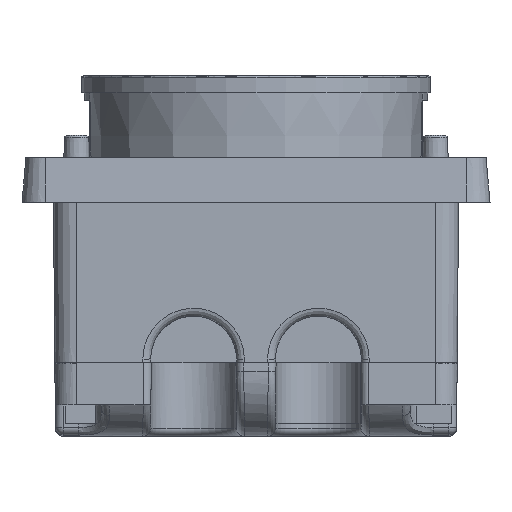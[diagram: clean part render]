
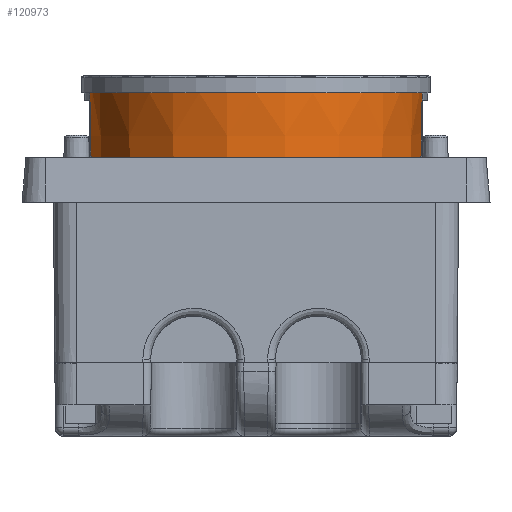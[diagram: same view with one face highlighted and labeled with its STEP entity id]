
A CAD part, left-side view. The second image highlights one B-rep face of the part: STEP entity #120973.
In plain terms, the highlighted conical face has half-angle 1 degrees and reference radius 21.295 mm.
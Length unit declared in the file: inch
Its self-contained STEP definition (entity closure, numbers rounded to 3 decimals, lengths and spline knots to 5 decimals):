
#117845=CARTESIAN_POINT('',(-0.5033,-0.64129,1.3622));
#117846=VERTEX_POINT('',#117845);
#117847=CARTESIAN_POINT('',(-1.04332,0.00001,1.3622));
#117848=DIRECTION('',(0.0,0.0,1.0));
#117849=DIRECTION('',(1.0,0.0,0.0));
#117850=AXIS2_PLACEMENT_3D('',#117847,#117848,#117849);
#117851=CIRCLE('',#117850,0.83838);
#117852=EDGE_CURVE('',#117846,#117846,#117851,.T.);
#120954=CARTESIAN_POINT('',(-1.04332,0.00001,1.3622));
#120955=DIRECTION('',(0.,0.,1.0));
#120956=DIRECTION('',(-1.0,0.0,0.0));
#120957=AXIS2_PLACEMENT_3D('',#120954,#120955,#120956);
#120958=CONICAL_SURFACE('',#120957,0.83838,1.);
#120959=ORIENTED_EDGE('',*,*,#117852,.F.);
#120960=EDGE_LOOP('',(#120959));
#120961=FACE_OUTER_BOUND('',#120960,.T.);
#120962=CARTESIAN_POINT('',(-1.04332,-0.82732,0.72931));
#120963=VERTEX_POINT('',#120962);
#120964=CARTESIAN_POINT('',(-1.04332,-0.00012,0.72209));
#120965=DIRECTION('',(0.,-0.009,-1.));
#120966=DIRECTION('',(0.,1.,-0.009));
#120967=AXIS2_PLACEMENT_3D('',#120964,#120965,#120966);
#120968=ELLIPSE('',#120967,0.82724,0.82721);
#120969=EDGE_CURVE('',#120963,#120963,#120968,.T.);
#120970=ORIENTED_EDGE('',*,*,#120969,.F.);
#120971=EDGE_LOOP('',(#120970));
#120972=FACE_BOUND('',#120971,.T.);
#120973=ADVANCED_FACE('',(#120961,#120972),#120958,.T.);
